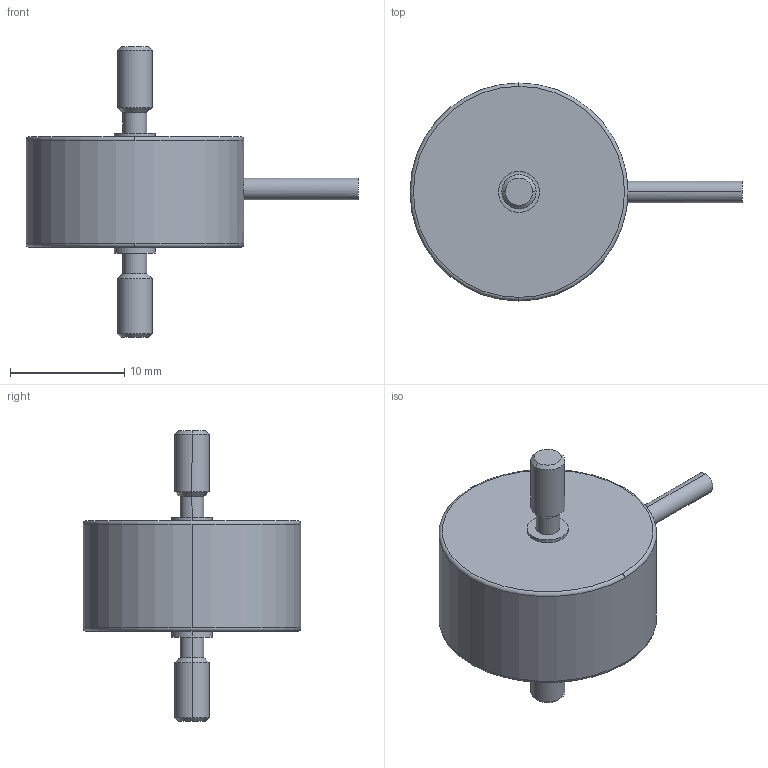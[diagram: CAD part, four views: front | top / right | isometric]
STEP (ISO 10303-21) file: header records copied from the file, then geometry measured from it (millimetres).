
FILE_DESCRIPTION(('STEP AP203'),'1');
FILE_NAME('C:/TPO v2/SharedFS/Outgoing/burster_8411-1000_1qzld8yjpig85et2acr966q4h.stp','2013-08-27T18:35:09',('TraceParts'),('TraceParts S.A.'),'XStep 1.0',' ',' ');
FILE_SCHEMA(('CONFIG_CONTROL_DESIGN'));
Length unit declared in the file: millimetre
Products named in the file (1): 1
Bounding box: 29.1 x 19.1 x 25.5 mm (x, y, z)
Volume: 2904 mm3; surface area: 1344.9 mm2
Topology: 1 solids, 1 shells, 35 faces, 76 edges, 47 vertices
Faces by surface type: cylinder 16, cone 8, plane 7, torus 4
Entity records: 1043 total; most frequent: CARTESIAN_POINT 194, DIRECTION 193, ORIENTED_EDGE 152, AXIS2_PLACEMENT_3D 84, EDGE_CURVE 76, CIRCLE 48, VERTEX_POINT 47, EDGE_LOOP 39
